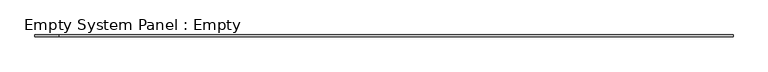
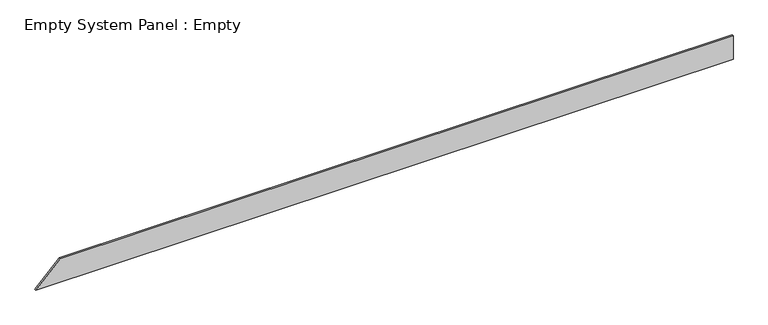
"""IFC4 building model written with IfcOpenShell, lengths in millimetres: plate geometry, Empty System Panel : Empty."""

from ifc_helpers import new_model, si_unit, frame, origin, place, context, project, spatial, polyline, outline, extrude, source, transform, mapped, element, save


def empty_system_panel_empty_225ca045(model_context):
    return source(origin(), model_context, "Body", "SweptSolid", [
        extrude(outline(polyline([(0.0, -19476.8879396), (0.0, 19476.8879396), (1375.3195673, 19476.8879396), (1375.3195673, -18116.7844227), (0.0, -19476.8879396)])), frame((0.0, -50.0, 0.0), z_axis=(0.0, 1.0, 0.0), x_axis=(0.0, 0.0, 1.0)), (0.0, 0.0, 1.0), 100.0),
    ])


if __name__ == "__main__":
    model = new_model("IFC4")
    model_context = context("Model", 3, world=origin())
    ifc_project = project(units=[si_unit("LENGTHUNIT", "METRE", prefix="MILLI")], contexts=[model_context])
    site = spatial("IfcSite", under=ifc_project)
    building = spatial("IfcBuilding", under=site)
    placement = place(None, origin())
    empty_system_panel_empty_shape = empty_system_panel_empty_225ca045(model_context)
    element("IfcPlate", 1, ObjectType="Empty System Panel : Empty", at=placement, inside=building, context=model_context, shape_type="MappedRepresentation", body=[
        mapped(empty_system_panel_empty_shape, transform((0.0, 0.0, 0.0), x_axis=(1.0, 0.0, 0.0), y_axis=(0.0, 1.0, 0.0), z_axis=(0.0, 0.0, 1.0))),
    ])
    save(model, "model.ifc")
